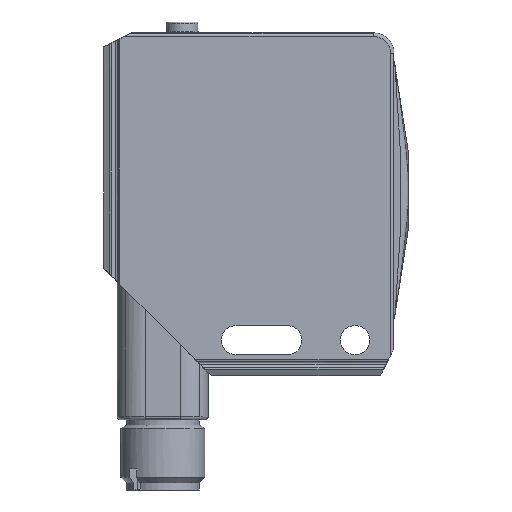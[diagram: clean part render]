
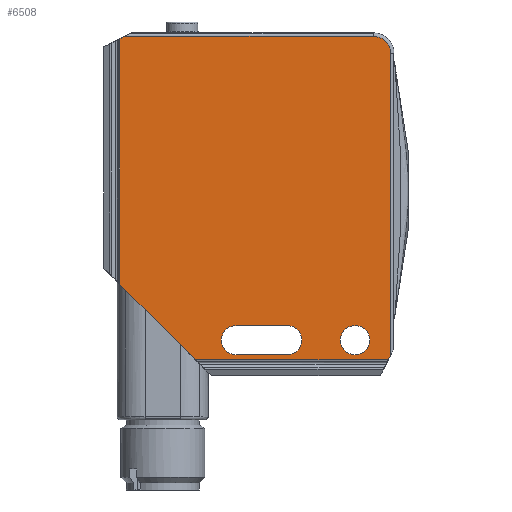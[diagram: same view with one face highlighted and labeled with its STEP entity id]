
A CAD part, front view. The second image highlights one B-rep face of the part: STEP entity #6508.
In plain terms, the highlighted planar face has unit normal (0, -1, 0).
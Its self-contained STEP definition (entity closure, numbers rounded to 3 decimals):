
#264=CARTESIAN_POINT('',(29.6,-7.5,-1.9));
#265=VERTEX_POINT('',#264);
#281=CARTESIAN_POINT('',(25.4,-7.5,-1.9));
#282=VERTEX_POINT('',#281);
#289=CARTESIAN_POINT('',(27.5,-7.5,-1.9));
#290=DIRECTION('',(0.0,1.0,0.0));
#291=DIRECTION('',(1.0,0.0,0.0));
#292=AXIS2_PLACEMENT_3D('',#289,#290,#291);
#293=CIRCLE('',#292,2.1);
#294=EDGE_CURVE('',#265,#282,#293,.T.);
#646=CARTESIAN_POINT('',(-5.4,-7.5,41.5));
#647=VERTEX_POINT('',#646);
#655=CARTESIAN_POINT('',(30.1,-7.5,41.5));
#656=VERTEX_POINT('',#655);
#657=CARTESIAN_POINT('',(-5.4,-7.5,41.5));
#658=DIRECTION('',(1.0,0.0,0.0));
#659=VECTOR('',#658,35.5);
#660=LINE('',#657,#659);
#661=EDGE_CURVE('',#647,#656,#660,.T.);
#1853=CARTESIAN_POINT('',(32.6,-7.5,39.0));
#1854=VERTEX_POINT('',#1853);
#1862=CARTESIAN_POINT('',(32.6,-7.5,-4.));
#1863=VERTEX_POINT('',#1862);
#1864=CARTESIAN_POINT('',(32.6,-7.5,39.0));
#1865=DIRECTION('',(0.0,0.0,-1.0));
#1866=VECTOR('',#1865,43.0);
#1867=LINE('',#1864,#1866);
#1868=EDGE_CURVE('',#1854,#1863,#1867,.T.);
#3735=CARTESIAN_POINT('',(30.1,-7.5,39.0));
#3736=DIRECTION('',(0.0,1.,0.0));
#3737=DIRECTION('',(0.707,0.0,0.707));
#3738=AXIS2_PLACEMENT_3D('',#3735,#3736,#3737);
#3739=CIRCLE('',#3738,2.5);
#3740=EDGE_CURVE('',#656,#1854,#3739,.T.);
#4076=CARTESIAN_POINT('',(4.7,-7.5,-4.7));
#4077=VERTEX_POINT('',#4076);
#4085=CARTESIAN_POINT('',(-6.1,-7.5,6.1));
#4086=VERTEX_POINT('',#4085);
#4087=CARTESIAN_POINT('',(4.7,-7.5,-4.7));
#4088=DIRECTION('',(-0.707,0.0,0.707));
#4089=VECTOR('',#4088,15.274);
#4090=LINE('',#4087,#4089);
#4091=EDGE_CURVE('',#4077,#4086,#4090,.T.);
#4195=CARTESIAN_POINT('',(-6.1,-7.5,41.15));
#4196=VERTEX_POINT('',#4195);
#4197=CARTESIAN_POINT('',(-6.1,-7.5,6.1));
#4198=DIRECTION('',(0.0,0.0,1.0));
#4199=VECTOR('',#4198,35.05);
#4200=LINE('',#4197,#4199);
#4201=EDGE_CURVE('',#4086,#4196,#4200,.T.);
#4469=CARTESIAN_POINT('',(-6.1,-7.5,41.15));
#4470=DIRECTION('',(0.894,0.0,0.447));
#4471=VECTOR('',#4470,0.783);
#4472=LINE('',#4469,#4471);
#4473=EDGE_CURVE('',#4196,#647,#4472,.T.);
#5525=CARTESIAN_POINT('',(32.25,-7.5,-4.7));
#5526=VERTEX_POINT('',#5525);
#5527=CARTESIAN_POINT('',(32.6,-7.5,-4.));
#5528=DIRECTION('',(-0.447,0.0,-0.894));
#5529=VECTOR('',#5528,0.783);
#5530=LINE('',#5527,#5529);
#5531=EDGE_CURVE('',#1863,#5526,#5530,.T.);
#6135=CARTESIAN_POINT('',(32.25,-7.5,-4.7));
#6136=DIRECTION('',(-1.0,0.0,0.0));
#6137=VECTOR('',#6136,27.55);
#6138=LINE('',#6135,#6137);
#6139=EDGE_CURVE('',#5526,#4077,#6138,.T.);
#6369=CARTESIAN_POINT('',(10.5,-7.5,-4.));
#6370=VERTEX_POINT('',#6369);
#6377=CARTESIAN_POINT('',(17.8,-7.5,-4.));
#6378=VERTEX_POINT('',#6377);
#6379=CARTESIAN_POINT('',(17.8,-7.5,-4.));
#6380=DIRECTION('',(-1.0,0.0,0.0));
#6381=VECTOR('',#6380,7.3);
#6382=LINE('',#6379,#6381);
#6383=EDGE_CURVE('',#6378,#6370,#6382,.T.);
#6405=CARTESIAN_POINT('',(17.8,-7.5,0.2));
#6406=VERTEX_POINT('',#6405);
#6407=CARTESIAN_POINT('',(17.8,-7.5,-1.9));
#6408=DIRECTION('',(0.0,1.0,0.0));
#6409=DIRECTION('',(0.0,0.0,-1.0));
#6410=AXIS2_PLACEMENT_3D('',#6407,#6408,#6409);
#6411=CIRCLE('',#6410,2.1);
#6412=EDGE_CURVE('',#6406,#6378,#6411,.T.);
#6430=CARTESIAN_POINT('',(10.5,-7.5,0.2));
#6431=VERTEX_POINT('',#6430);
#6432=CARTESIAN_POINT('',(10.5,-7.5,0.2));
#6433=DIRECTION('',(1.0,0.0,0.0));
#6434=VECTOR('',#6433,7.3);
#6435=LINE('',#6432,#6434);
#6436=EDGE_CURVE('',#6431,#6406,#6435,.T.);
#6454=CARTESIAN_POINT('',(10.5,-7.5,-1.9));
#6455=DIRECTION('',(0.0,1.0,0.0));
#6456=DIRECTION('',(0.0,0.0,1.0));
#6457=AXIS2_PLACEMENT_3D('',#6454,#6455,#6456);
#6458=CIRCLE('',#6457,2.1);
#6459=EDGE_CURVE('',#6370,#6431,#6458,.T.);
#6471=CARTESIAN_POINT('',(27.5,-7.5,-1.9));
#6472=DIRECTION('',(0.0,1.0,0.0));
#6473=DIRECTION('',(1.0,0.0,0.0));
#6474=AXIS2_PLACEMENT_3D('',#6471,#6472,#6473);
#6475=CIRCLE('',#6474,2.1);
#6476=EDGE_CURVE('',#282,#265,#6475,.T.);
#6483=CARTESIAN_POINT('',(13.586,-7.5,18.909));
#6484=DIRECTION('',(0.0,1.0,0.0));
#6485=DIRECTION('',(0.0,0.0,1.0));
#6486=AXIS2_PLACEMENT_3D('',#6483,#6484,#6485);
#6487=PLANE('',#6486);
#6488=ORIENTED_EDGE('',*,*,#4201,.F.);
#6489=ORIENTED_EDGE('',*,*,#4091,.F.);
#6490=ORIENTED_EDGE('',*,*,#6139,.F.);
#6491=ORIENTED_EDGE('',*,*,#5531,.F.);
#6492=ORIENTED_EDGE('',*,*,#1868,.F.);
#6493=ORIENTED_EDGE('',*,*,#3740,.F.);
#6494=ORIENTED_EDGE('',*,*,#661,.F.);
#6495=ORIENTED_EDGE('',*,*,#4473,.F.);
#6496=EDGE_LOOP('',(#6488,#6489,#6490,#6491,#6492,#6493,#6494,#6495));
#6497=FACE_OUTER_BOUND('',#6496,.T.);
#6498=ORIENTED_EDGE('',*,*,#6383,.T.);
#6499=ORIENTED_EDGE('',*,*,#6459,.T.);
#6500=ORIENTED_EDGE('',*,*,#6436,.T.);
#6501=ORIENTED_EDGE('',*,*,#6412,.T.);
#6502=EDGE_LOOP('',(#6498,#6499,#6500,#6501));
#6503=FACE_BOUND('',#6502,.T.);
#6504=ORIENTED_EDGE('',*,*,#6476,.T.);
#6505=ORIENTED_EDGE('',*,*,#294,.T.);
#6506=EDGE_LOOP('',(#6504,#6505));
#6507=FACE_BOUND('',#6506,.T.);
#6508=ADVANCED_FACE('',(#6497,#6503,#6507),#6487,.F.);
